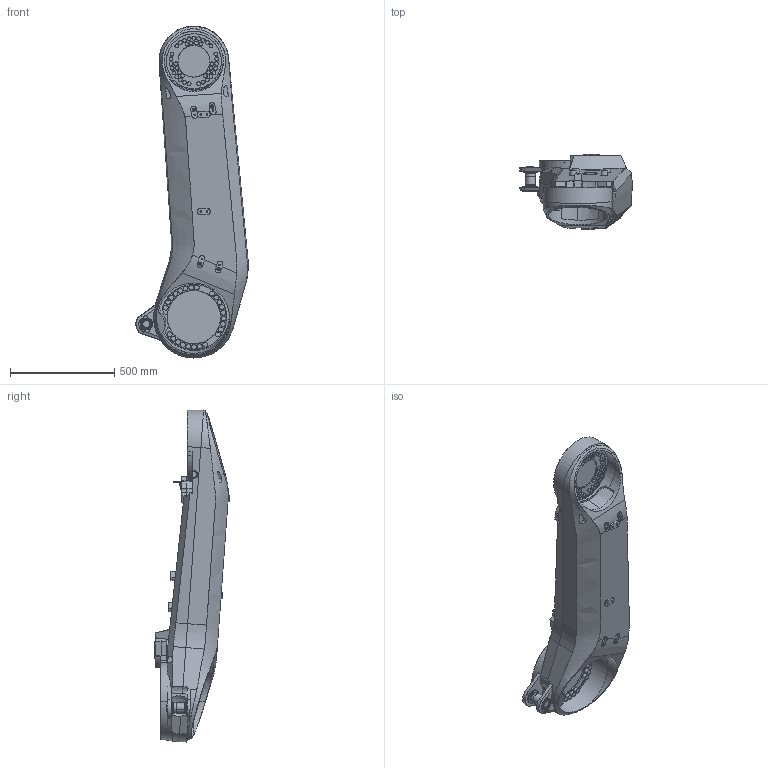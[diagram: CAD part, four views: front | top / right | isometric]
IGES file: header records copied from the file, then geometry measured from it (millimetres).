
Start section: SolidWorks IGES file using analytic representation for surfaces
Global section: file name: C:\Data\SAP_DOC\IRB6740_lightweight\6740_ASM\IRB6740_310kg-280_OC_02_SW_J\IRB6740_310kg-280_OC_02_IGES_J\IRB6740_310kg-280_OC_00_LINK02_CAD.igs; native system: SolidWorks 2024; preprocessor: SolidWorks 2024; author: SEJAOLS6; date: 260506.155139; units: millimetre
Bounding box: 539.08 x 362.5 x 1589.53 mm (x, y, z)
Surface area: 2204178.2 mm2 (no closed solid volume)
Topology: 0 solids, 0 shells, 736 faces, 17167 edges, 17165 vertices
Faces by surface type: bspline 412, revolution 324
